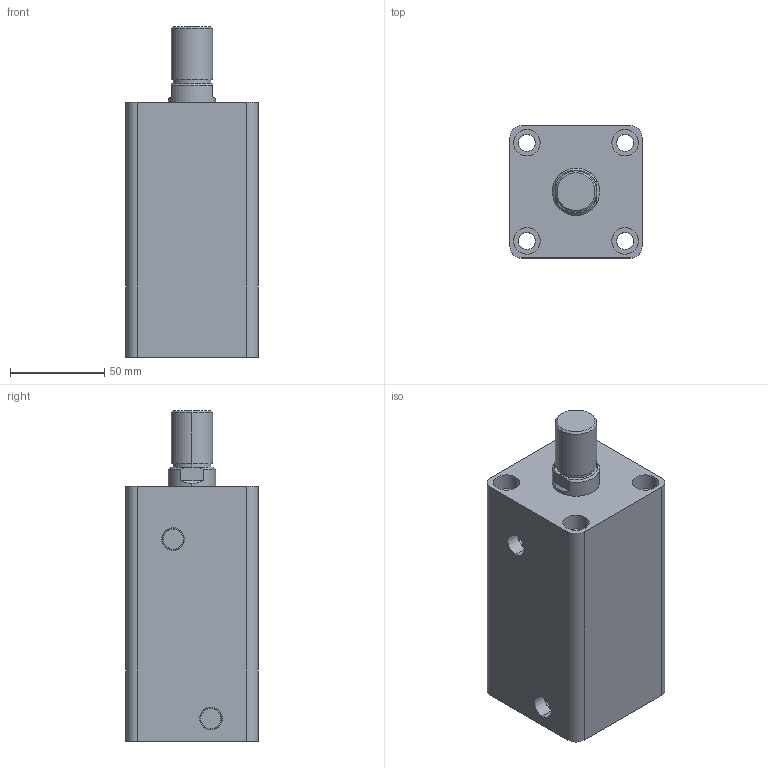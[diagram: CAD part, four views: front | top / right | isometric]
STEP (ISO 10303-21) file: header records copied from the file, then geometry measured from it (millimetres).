
FILE_DESCRIPTION (( 'STEP AP203' ), '1' );
FILE_NAME ('HTB-SD40-80W.STEP', '2019-10-07T06:56:17', ( '微软用户' ), ( '微软中国' ), 'SwSTEP 2.0', 'SolidWorks 2012', '' );
FILE_SCHEMA (( 'CONFIG_CONTROL_DESIGN' ));
Length unit declared in the file: millimetre
Products named in the file (3): HTB-SD40-80掛极; HTB-SD40-80W活塞杆; HTB-SD40-80W
Assembly tree (2 placements, depth 2):
  HTB-SD40-80W
    HTB-SD40-80掛极
    HTB-SD40-80W活塞杆
Bounding box: 70 x 70 x 175 mm (x, y, z)
Volume: 569193 mm3; surface area: 94687.9 mm2
Topology: 2 solids, 2 shells, 85 faces, 186 edges, 122 vertices
Faces by surface type: cylinder 44, plane 29, cone 8, torus 4
Entity records: 2709 total; most frequent: DIRECTION 466, CARTESIAN_POINT 426, ORIENTED_EDGE 372, AXIS2_PLACEMENT_3D 198, EDGE_CURVE 186, VERTEX_POINT 122, EDGE_LOOP 110, CIRCLE 108
